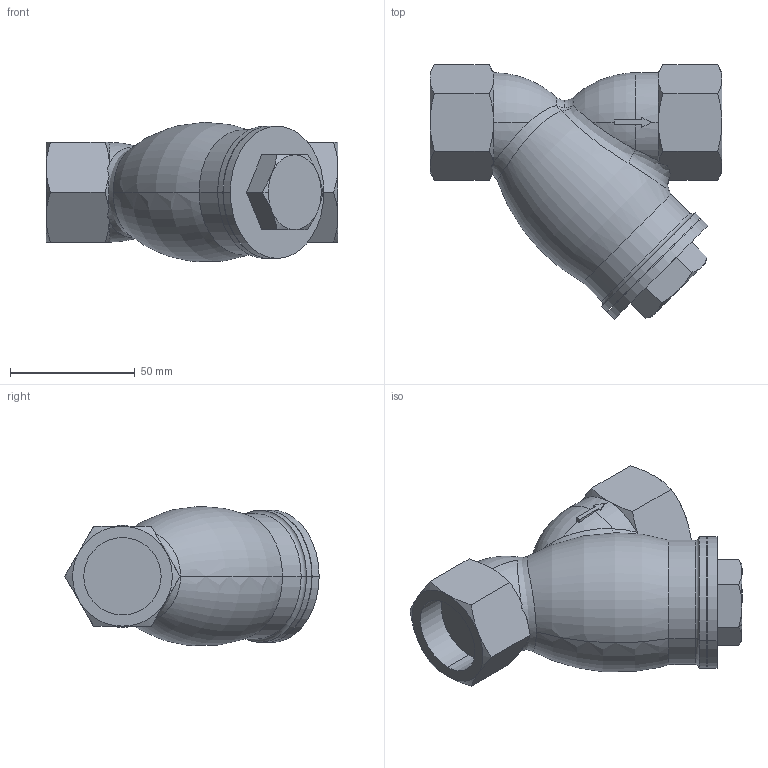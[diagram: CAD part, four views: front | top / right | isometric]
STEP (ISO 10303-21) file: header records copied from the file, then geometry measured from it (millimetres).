
FILE_DESCRIPTION (( 'STEP AP203' ), '1' );
FILE_NAME ('SY-6 25A.STEP', '2026-05-18T00:45:37', ( '' ), ( '' ), 'SwSTEP 2.0', 'SolidWorks 2026', '' );
FILE_SCHEMA (( 'CONFIG_CONTROL_DESIGN' ));
Length unit declared in the file: millimetre
Products named in the file (1): SY-6 25A
Bounding box: 117 x 101.94 x 55.77 mm (x, y, z)
Volume: 263064.5 mm3; surface area: 32400.7 mm2
Topology: 1 solids, 1 shells, 106 faces, 249 edges, 150 vertices
Faces by surface type: plane 42, cone 30, cylinder 15, torus 12, bspline 4, sphere 3
Entity records: 4390 total; most frequent: CARTESIAN_POINT 2025, ORIENTED_EDGE 498, DIRECTION 451, EDGE_CURVE 249, AXIS2_PLACEMENT_3D 190, VERTEX_POINT 150, EDGE_LOOP 111, FACE_OUTER_BOUND 106
